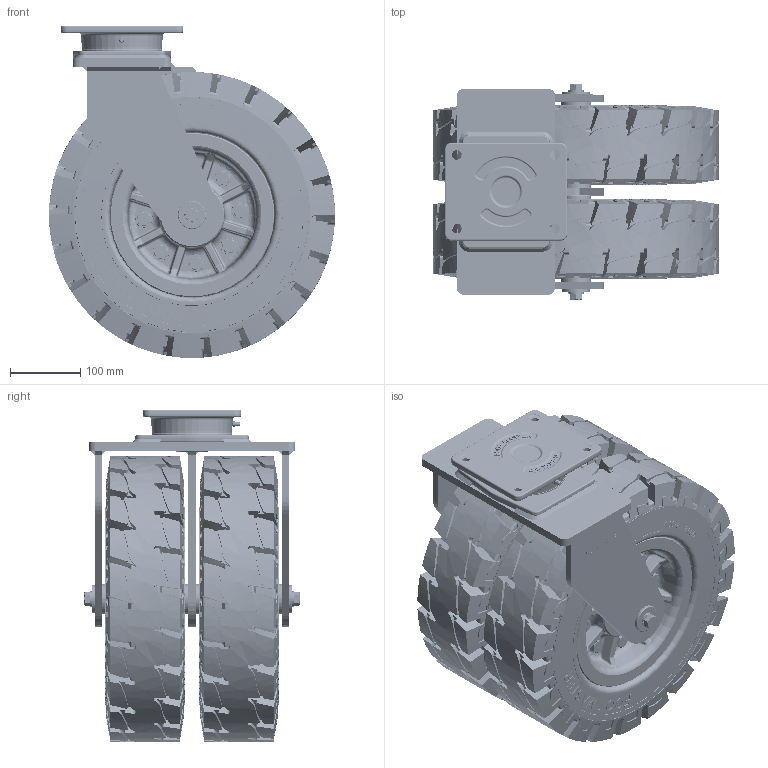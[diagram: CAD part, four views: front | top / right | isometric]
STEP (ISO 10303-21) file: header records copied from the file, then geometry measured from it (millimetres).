
FILE_DESCRIPTION(/* description */ (''),/* implementation_level */ '2;1');
FILE_NAME(/* name */ '\\192.168.10.38\지덕공유\1.기술연구소\2.연구개발 진행중\121.Solidtire caster_2024.11.22\제품설계\홈페이지용 도면\3D\GT-400\55.GTD-400-ASF-TRD.stp',/* time_stamp */ '2025-09-19T13:28:32+09:00',/* author */ ('admin'),/* organization */ (''),/* preprocessor_version */ 'ST-DEVELOPER v18.1',/* originating_system */ 'Autodesk Inventor 2021',/* authorisation */ '');
FILE_SCHEMA (('AUTOMOTIVE_DESIGN { 1 0 10303 214 3 1 1 }'));
Products named in the file (1): 55.GTD-400-ASF-TIRE-Rev01_2025.09.18_Shrinkwrap_1
Bounding box: 407.91 x 307 x 473.42 mm (x, y, z)
Volume: 25884393.7 mm3; surface area: 1474914.9 mm2
Topology: 1 solids, 2 shells, 7020 faces, 19325 edges, 12692 vertices
Faces by surface type: bspline 2568, plane 2028, cylinder 1279, cone 700, torus 444, sphere 1
Full cylindrical faces by diameter (mm): 6 x1, 12 x16, 14 x4, 18.5 x16, 24 x16, 40 x2, 42.7 x4, 76 x1, 113 x1, 114 x1, 258.997 x4, 317.998 x4, 333.998 x4, 336.998 x4
Entity records: 345168 total; most frequent: CARTESIAN_POINT 186819, ORIENTED_EDGE 38646, DIRECTION 20781, EDGE_CURVE 19323, VERTEX_POINT 12692, B_SPLINE_CURVE_WITH_KNOTS 9102, AXIS2_PLACEMENT_3D 7579, EDGE_LOOP 7429
